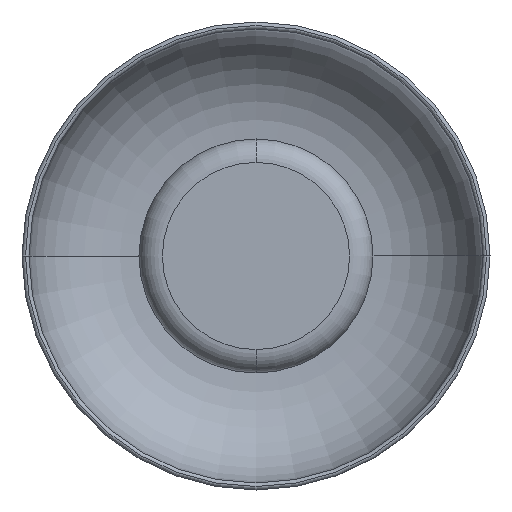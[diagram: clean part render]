
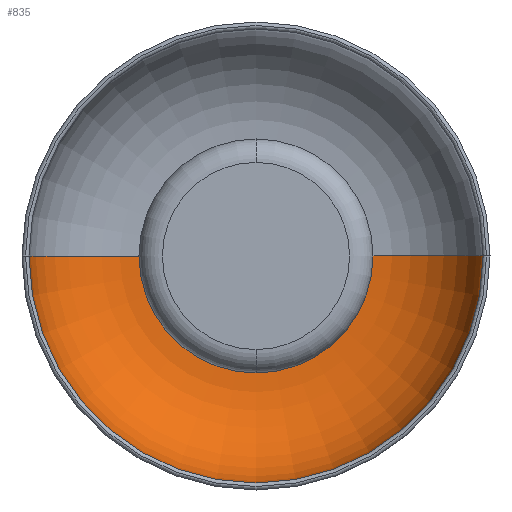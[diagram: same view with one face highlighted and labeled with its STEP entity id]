
A CAD part, front view. The second image highlights one B-rep face of the part: STEP entity #835.
In plain terms, the highlighted toroidal (fillet/blend) face has major radius 50 mm and minor radius 47 mm.
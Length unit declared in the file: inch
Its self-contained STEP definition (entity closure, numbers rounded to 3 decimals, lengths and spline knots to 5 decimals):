
#35 = VERTEX_POINT ( 'NONE', #945 ) ;
#80 = CIRCLE ( 'NONE', #887, 3.8189 ) ;
#90 = DIRECTION ( 'NONE',  ( 0., 1., 0. ) ) ;
#100 = CARTESIAN_POINT ( 'NONE',  ( -1.9685, -0.7874, 0. ) ) ;
#131 = EDGE_LOOP ( 'NONE', ( #146, #717, #245, #241 ) ) ;
#146 = ORIENTED_EDGE ( 'NONE', *, *, #260, .F. ) ;
#193 = VERTEX_POINT ( 'NONE', #562 ) ;
#200 = EDGE_CURVE ( 'NONE', #523, #963, #328, .T. ) ;
#241 = ORIENTED_EDGE ( 'NONE', *, *, #495, .F. ) ;
#244 = AXIS2_PLACEMENT_3D ( 'NONE', #1025, #90, #588 ) ;
#245 = ORIENTED_EDGE ( 'NONE', *, *, #911, .T. ) ;
#260 = EDGE_CURVE ( 'NONE', #523, #193, #80, .T. ) ;
#290 = DIRECTION ( 'NONE',  ( -1., 0., 0. ) ) ;
#328 = CIRCLE ( 'NONE', #1095, 1.85039 ) ;
#340 = CARTESIAN_POINT ( 'NONE',  ( 0., -0.7874, 0. ) ) ;
#347 = AXIS2_PLACEMENT_3D ( 'NONE', #100, #1030, #681 ) ;
#380 = DIRECTION ( 'NONE',  ( 0., 1., 0. ) ) ;
#446 = CARTESIAN_POINT ( 'NONE',  ( 1.9685, -0.7874, 0. ) ) ;
#483 = FACE_OUTER_BOUND ( 'NONE', #131, .T. ) ;
#495 = EDGE_CURVE ( 'NONE', #193, #35, #881, .T. ) ;
#523 = VERTEX_POINT ( 'NONE', #774 ) ;
#547 = CARTESIAN_POINT ( 'NONE',  ( 0., -0.7874, 0. ) ) ;
#562 = CARTESIAN_POINT ( 'NONE',  ( -3.8189, -0.7874, 0. ) ) ;
#588 = DIRECTION ( 'NONE',  ( -1., 0., 0. ) ) ;
#681 = DIRECTION ( 'NONE',  ( -1., 0., 0. ) ) ;
#717 = ORIENTED_EDGE ( 'NONE', *, *, #200, .T. ) ;
#719 = CIRCLE ( 'NONE', #244, 1.9685 ) ;
#724 = AXIS2_PLACEMENT_3D ( 'NONE', #340, #857, #764 ) ;
#764 = DIRECTION ( 'NONE',  ( -1., 0., 0. ) ) ;
#774 = CARTESIAN_POINT ( 'NONE',  ( 3.8189, -0.7874, 0. ) ) ;
#835 = ADVANCED_FACE ( 'NONE', ( #483 ), #919, .F. ) ;
#855 = CARTESIAN_POINT ( 'NONE',  ( 1.9685, 1.06299, 0. ) ) ;
#857 = DIRECTION ( 'NONE',  ( 0., 1., 0. ) ) ;
#881 = CIRCLE ( 'NONE', #347, 1.85039 ) ;
#887 = AXIS2_PLACEMENT_3D ( 'NONE', #547, #380, #290 ) ;
#888 = DIRECTION ( 'NONE',  ( 0., 0., 1. ) ) ;
#911 = EDGE_CURVE ( 'NONE', #963, #35, #719, .T. ) ;
#919 = TOROIDAL_SURFACE ( 'NONE', #724, 1.9685, 1.85039 ) ;
#945 = CARTESIAN_POINT ( 'NONE',  ( -1.9685, 1.06299, 0. ) ) ;
#963 = VERTEX_POINT ( 'NONE', #855 ) ;
#1025 = CARTESIAN_POINT ( 'NONE',  ( 0., 1.06299, 0. ) ) ;
#1030 = DIRECTION ( 'NONE',  ( 0., 0., -1. ) ) ;
#1068 = DIRECTION ( 'NONE',  ( 1., 0., 0. ) ) ;
#1095 = AXIS2_PLACEMENT_3D ( 'NONE', #446, #888, #1068 ) ;
